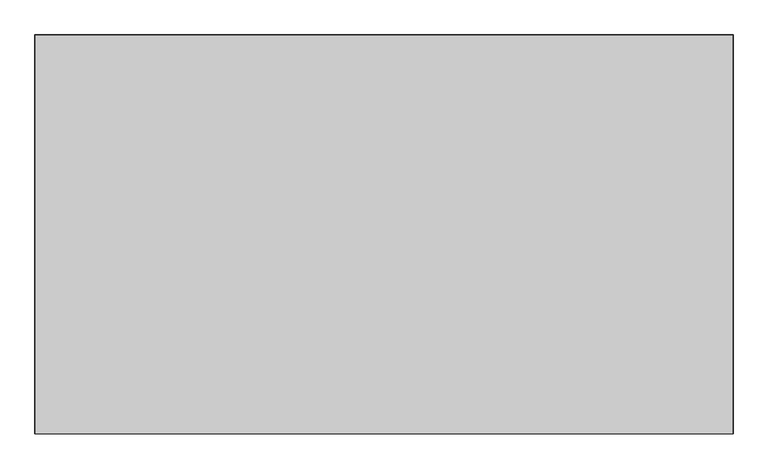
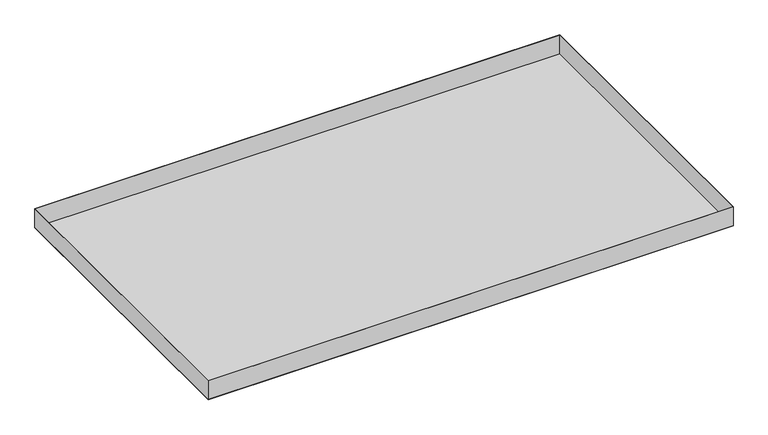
"""IFC4 building model written with IfcOpenShell, lengths in millimetres: proxy geometry, durlum_S5-150_RHOMBOS_panel : durlum_S5-150_RHOMBOS_panel."""

import ifcopenshell
import ifcopenshell.guid

model = None  # the IFC model being written
_history = None  # IfcOwnerHistory: only IFC2X3 demands one
_inside = {}  # id of a spatial element -> (the spatial element, [elements in it])
_under = {}  # id of a project, library or spatial element -> (it, [spatial elements below it])
_declared = {}  # id of a project -> (the project, [libraries it declares])
_typed = {}  # id of a type object -> (the type object, [elements of that type])
_made_of = {}  # id of a material, layer set ... -> (it, [elements and type objects made of it])


def new_model(schema):
    """Start an empty IFC model of exactly this schema.

    Asked for "IFC4X3", IfcOpenShell would pick the latest addendum, in which some entities
    have other attributes; the version numbers below select the first issue.
    IFC2X3 requires an IfcOwnerHistory on every rooted entity: one is made here for all.
    """
    global model, _history
    if schema == "IFC4X3":
        model = ifcopenshell.file(schema_version=(4, 3, 0, 0))
    else:
        model = ifcopenshell.file(schema=schema)
    _inside.clear()
    _under.clear()
    _declared.clear()
    _typed.clear()
    _made_of.clear()
    _history = None
    if model.schema == "IFC2X3":
        org = make("IfcOrganization", Name="unknown")
        user = make(
            "IfcPersonAndOrganization",
            ThePerson=make("IfcPerson", FamilyName="unknown"),
            TheOrganization=org,
        )
        app = make(
            "IfcApplication",
            ApplicationDeveloper=org,
            Version="unknown",
            ApplicationFullName="unknown",
            ApplicationIdentifier="unknown",
        )
        _history = make(
            "IfcOwnerHistory",
            OwningUser=user,
            OwningApplication=app,
            ChangeAction="ADDED",
            CreationDate=0,
        )
    return model


def make(cls, **values):
    """One entity of the class cls with the attributes given. An attribute that is None is left unset."""
    return model.create_entity(
        cls, **{name: value for name, value in values.items() if value is not None}
    )


def rooted(cls, **values):
    """An entity with a GlobalId (a new one), such as an element, a storey or a relation."""
    return make(cls, GlobalId=ifcopenshell.guid.new(), OwnerHistory=_history, **values)


def si_unit(unit_type, name, prefix=None):
    """IfcSIUnit, for example si_unit("LENGTHUNIT", "METRE", prefix="MILLI")."""
    return make("IfcSIUnit", UnitType=unit_type, Prefix=prefix, Name=name)


def assignment(units):
    """IfcUnitAssignment: the units of a project."""
    return None if units is None else make("IfcUnitAssignment", Units=units)


def point(xyz):
    """IfcCartesianPoint."""
    return None if xyz is None else make("IfcCartesianPoint", Coordinates=xyz)


def direction(xyz):
    """IfcDirection."""
    return None if xyz is None else make("IfcDirection", DirectionRatios=xyz)


def frame(location, z_axis=None, x_axis=None):
    """IfcAxis2Placement3D, a coordinate frame: its origin and axes. An axis left out is left unset."""
    return make(
        "IfcAxis2Placement3D",
        Location=point(location),
        Axis=direction(z_axis),
        RefDirection=direction(x_axis),
    )


def origin():
    """The frame at (0, 0, 0) with its axes left unset."""
    return frame((0.0, 0.0, 0.0))


def origin_with_axes():
    """The frame at (0, 0, 0) with the z axis (0, 0, 1) and the x axis (1, 0, 0) written out."""
    return frame((0.0, 0.0, 0.0), z_axis=(0.0, 0.0, 1.0), x_axis=(1.0, 0.0, 0.0))


def place(relative_to, where):
    """IfcLocalPlacement: puts the frame where relative to a parent placement (None: the world)."""
    return make(
        "IfcLocalPlacement", PlacementRelTo=relative_to, RelativePlacement=where
    )


def context(
    kind, dimensions, precision=None, world=None, true_north=None, identifier=None
):
    """IfcGeometricRepresentationContext, for example the 3D "Model" context."""
    return make(
        "IfcGeometricRepresentationContext",
        ContextIdentifier=identifier,
        ContextType=kind,
        CoordinateSpaceDimension=dimensions,
        Precision=precision,
        WorldCoordinateSystem=world,
        TrueNorth=true_north,
    )


def project(units=None, contexts=None):
    """IfcProject with its units and contexts."""
    return rooted(
        "IfcProject",
        Name="project",
        RepresentationContexts=contexts,
        UnitsInContext=assignment(units),
    )


def spatial(cls, under=None, at=None, **own):
    """A site, building, storey or space (cls), placed at a placement, below another one or the project."""
    s = rooted(cls, ObjectPlacement=at, **own)
    if under is not None:
        _under.setdefault(under.id(), (under, []))[1].append(s)
    return s


def polyline(points):
    """IfcPolyline through the points."""
    return make("IfcPolyline", Points=[point(p) for p in points])


def outline(outer, holes=None, kind="AREA"):
    """IfcArbitraryClosedProfileDef: a profile drawn as a closed curve; with holes, ...WithVoids."""
    if holes is None:
        return make("IfcArbitraryClosedProfileDef", ProfileType=kind, OuterCurve=outer)
    return make(
        "IfcArbitraryProfileDefWithVoids",
        ProfileType=kind,
        OuterCurve=outer,
        InnerCurves=holes,
    )


def extrude(swept, where, along, depth):
    """IfcExtrudedAreaSolid: the profile swept, set in the frame where, extruded along a direction by depth."""
    return make(
        "IfcExtrudedAreaSolid",
        SweptArea=swept,
        Position=where,
        ExtrudedDirection=direction(along),
        Depth=depth,
    )


def shape(context_of_items, identifier, shape_type, items):
    """IfcShapeRepresentation: the items that make up one representation, for example the "Body"."""
    return make(
        "IfcShapeRepresentation",
        ContextOfItems=context_of_items,
        RepresentationIdentifier=identifier,
        RepresentationType=shape_type,
        Items=items,
    )


def source(mapping_origin, context_of_items, identifier, shape_type, items):
    """IfcRepresentationMap: a shape defined once, which mapped items show again and again."""
    return make(
        "IfcRepresentationMap",
        MappingOrigin=mapping_origin,
        MappedRepresentation=shape(context_of_items, identifier, shape_type, items),
    )


def transform(
    local_origin,
    x_axis=None,
    y_axis=None,
    z_axis=None,
    scale=None,
    scale2=None,
    scale3=None,
    uniform=True,
):
    """IfcCartesianTransformationOperator3D, or its non-uniform kind. x_axis, y_axis, z_axis: its Axis1, 2, 3."""
    if uniform:
        return make(
            "IfcCartesianTransformationOperator3D",
            Axis1=direction(x_axis),
            Axis2=direction(y_axis),
            LocalOrigin=point(local_origin),
            Scale=scale,
            Axis3=direction(z_axis),
        )
    return make(
        "IfcCartesianTransformationOperator3DnonUniform",
        Axis1=direction(x_axis),
        Axis2=direction(y_axis),
        LocalOrigin=point(local_origin),
        Scale=scale,
        Axis3=direction(z_axis),
        Scale2=scale2,
        Scale3=scale3,
    )


def mapped(mapping_source, mapping_target):
    """IfcMappedItem: shows the shape of a source again, moved by a transform."""
    return make(
        "IfcMappedItem", MappingSource=mapping_source, MappingTarget=mapping_target
    )


def made_of(thing, what):
    """Note that an element or type object is made of a material, layer set ...; save() writes the relation."""
    if what is not None:
        _made_of.setdefault(what.id(), (what, []))[1].append(thing)
    return thing


def element(
    cls,
    number,
    at=None,
    inside=None,
    cuts=None,
    type_object=None,
    material=None,
    context=None,
    identifier="Body",
    shape_type=None,
    held_by="IfcProductDefinitionShape",
    body=None,
    shapes=None,
    **own,
):
    """One element of the class cls, such as IfcWall. Its Tag is "e" and its number.

    at: its placement. inside: the storey or other place that contains it. cuts: it is an
    opening in that element (IfcRelVoidsElement). A single representation is given by context,
    identifier, shape_type and body (its items); several are given by shapes. held_by: the class
    of the entity that holds the representations. save() writes the other relations.
    """
    e = rooted(cls, Tag="e%d" % number, ObjectPlacement=at, **own)
    if body is not None:
        shapes = [shape(context, identifier, shape_type, body)]
    if shapes is not None:
        e.Representation = make(held_by, Representations=shapes)
    if inside is not None:
        _inside.setdefault(inside.id(), (inside, []))[1].append(e)
    if cuts is not None:
        rooted(
            "IfcRelVoidsElement", RelatingBuildingElement=cuts, RelatedOpeningElement=e
        )
    if type_object is not None:
        _typed.setdefault(type_object.id(), (type_object, []))[1].append(e)
    return made_of(e, material)


def aggregate(whole, parts):
    """IfcRelAggregates: a whole, such as a stair, and the parts it consists of."""
    return rooted("IfcRelAggregates", RelatingObject=whole, RelatedObjects=parts)


def save(model, path):
    """Write the relations noted so far, then the file.

    IfcRelAggregates (storeys below a building ...), IfcRelContainedInSpatialStructure (elements
    in a storey), IfcRelDefinesByType, IfcRelAssociatesMaterial and IfcRelDeclares: one each for
    every whole, place, type object, material and project.
    """
    for whole, parts in _under.values():
        aggregate(whole, parts)
    for where, things in _inside.values():
        rooted(
            "IfcRelContainedInSpatialStructure",
            RelatedElements=things,
            RelatingStructure=where,
        )
    for kind, things in _typed.values():
        rooted("IfcRelDefinesByType", RelatedObjects=things, RelatingType=kind)
    for what, things in _made_of.values():
        rooted("IfcRelAssociatesMaterial", RelatedObjects=things, RelatingMaterial=what)
    for by, libraries in _declared.values():
        rooted("IfcRelDeclares", RelatingContext=by, RelatedDefinitions=libraries)
    model.write(path)


def generic_models_220a1359(model_context):
    return source(origin(), model_context, "Body", "SweptSolid", [
        extrude(outline(polyline([(524.5, 299.75), (524.5, -299.75), (-524.5, -299.75), (-524.5, 299.75), (524.5, 299.75)]), holes=[polyline([(523.9, 299.15), (-523.9, 299.15), (-523.9, -299.15), (523.9, -299.15), (523.9, 299.15)])]), frame((0.0, 0.0, 0.6), z_axis=(0.0, 0.0, 1.0), x_axis=(1.0, 0.0, 0.0)), (0.0, 0.0, 1.0), 39.4),
        extrude(outline(polyline([(524.5, 299.75), (524.5, -299.75), (-524.5, -299.75), (-524.5, 299.75), (524.5, 299.75)])), origin_with_axes(), (0.0, 0.0, 1.0), 0.6),
    ])


if __name__ == "__main__":
    model = new_model("IFC4")
    model_context = context("Model", 3, world=origin())
    ifc_project = project(units=[si_unit("LENGTHUNIT", "METRE", prefix="MILLI")], contexts=[model_context])
    site = spatial("IfcSite", under=ifc_project)
    building = spatial("IfcBuilding", under=site)
    placement = place(None, origin())
    generic_models_shape = generic_models_220a1359(model_context)
    element("IfcBuildingElementProxy", 1, Name="durlum_S5-150_RHOMBOS_panel : durlum_S5-150_RHOMBOS_panel", ObjectType="durlum_S5-150_RHOMBOS_panel : durlum_S5-150_RHOMBOS_panel", at=placement, inside=building, context=model_context, shape_type="MappedRepresentation", body=[
        mapped(generic_models_shape, transform((0.0, 0.0, 0.0), x_axis=(1.0, 0.0, 0.0), y_axis=(0.0, 1.0, 0.0), z_axis=(0.0, 0.0, 1.0))),
    ])
    save(model, "model.ifc")
